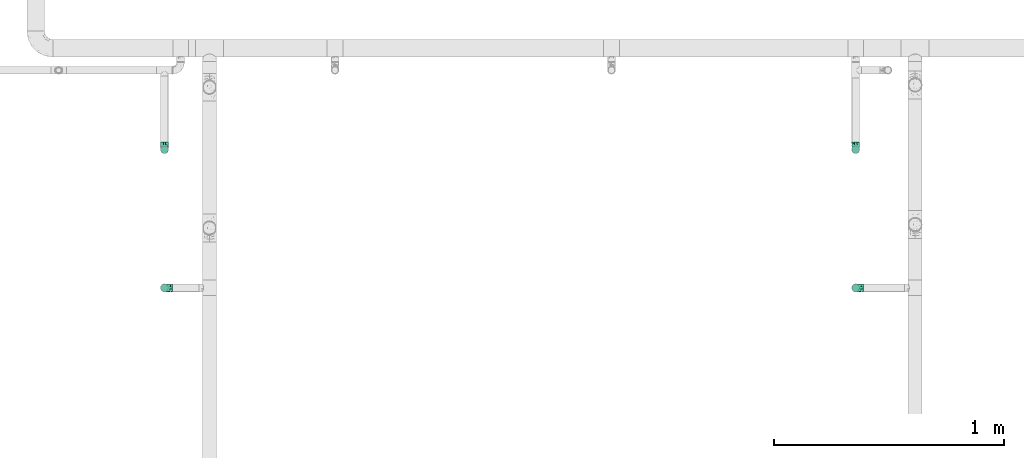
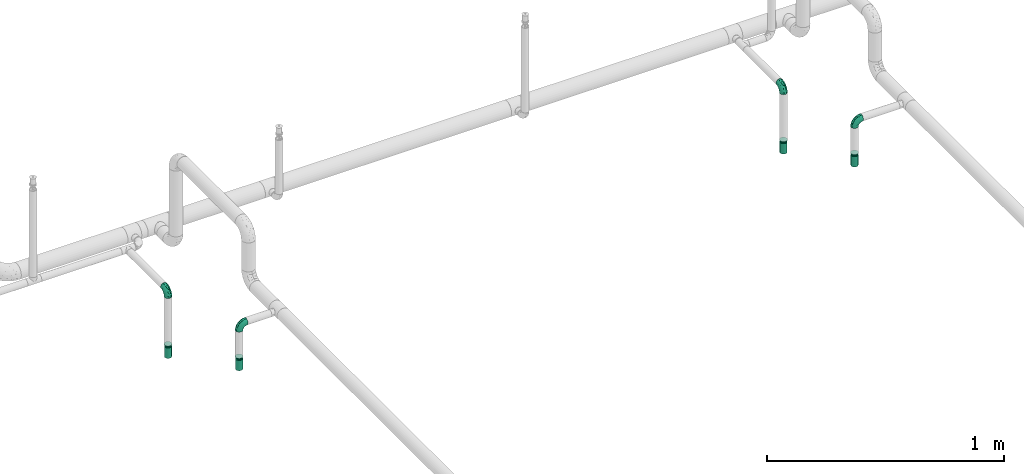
# One storey, part 97 of 157: 8 flow fittings, 4 flow terminals.
"""IFC2X3 building model written with IfcOpenShell, lengths in millimetres."""

from ifc_helpers import new_model, entity, si_unit, converted_unit, derived_unit, direction, frame, origin_with_axes, place, context, subcontext, project, spatial, open_shell, surface_model, source, transform, mapped, type_object, element, save


model = new_model("IFC2X3")

# Units and contexts
model_context = context("Model", 3, precision=0.01, world=frame((0.0, 4.29681676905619e-09, 0.0)), true_north=direction((4.01073788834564e-13, 1.0)))
plan_context = context("Plan", 3, precision=0.01, world=frame((0.0, 4.29681676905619e-09, 0.0)), true_north=direction((4.01073788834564e-13, 1.0)))
body_context = subcontext(model_context, "Body", "Model", "MODEL_VIEW")
ifc_project = project(units=[converted_unit("PLANEANGLEUNIT", "DEGREE", entity("IfcPositiveLengthMeasure", 0.0174532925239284), si_unit("PLANEANGLEUNIT", "RADIAN"), dimensions=[0, 0, 0, 0, 0, 0, 0]), si_unit("AREAUNIT", "SQUARE_METRE"), si_unit("LENGTHUNIT", "METRE", prefix="MILLI"), si_unit("MASSUNIT", "GRAM", prefix="KILO"), si_unit("POWERUNIT", "WATT"), si_unit("PRESSUREUNIT", "PASCAL"), si_unit("FORCEUNIT", "NEWTON", prefix="KILO"), si_unit("ELECTRICCURRENTUNIT", "AMPERE"), si_unit("THERMODYNAMICTEMPERATUREUNIT", "DEGREE_CELSIUS"), si_unit("TIMEUNIT", "SECOND"), si_unit("VOLUMEUNIT", "CUBIC_METRE"), derived_unit("LINEARVELOCITYUNIT", [(si_unit("LENGTHUNIT", "METRE"), 1), (si_unit("TIMEUNIT", "SECOND"), -1)]), derived_unit("VOLUMETRICFLOWRATEUNIT", [(si_unit("VOLUMEUNIT", "CUBIC_METRE"), 1), (si_unit("TIMEUNIT", "SECOND"), -1)]), derived_unit("THERMALTRANSMITTANCEUNIT", [(si_unit("POWERUNIT", "WATT"), 1), (si_unit("THERMODYNAMICTEMPERATUREUNIT", "KELVIN"), -1), (si_unit("AREAUNIT", "SQUARE_METRE"), -1)])], contexts=[model_context, plan_context])

# Site, building, storey
site_placement = place(None, frame((0.0, -4.29681676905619e-09, 0.0), z_axis=(0.0, 0.0, 1.0), x_axis=(1.0, 0.0, 0.0)))
site = spatial("IfcSite", under=ifc_project, at=site_placement, CompositionType="ELEMENT")
building_placement = place(site_placement, frame((0.0, 4.29681676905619e-09, 0.0), z_axis=(0.0, 0.0, 1.0), x_axis=(1.0, 0.0, 0.0)))
building = spatial("IfcBuilding", under=site, at=building_placement, Name="mc-building", CompositionType="ELEMENT")
storey_placement = place(building_placement, frame((0.0, 0.0, 204000.0), z_axis=(0.0, 0.0, 1.0), x_axis=(1.0, 0.0, 0.0)))
storey = spatial("IfcBuildingStorey", under=building, at=storey_placement, Name="Nivå D", CompositionType="ELEMENT", Elevation=204000.0)

# Flow fittings
pipe_fitting_type_1 = type_object("IfcPipeFittingType", Name="magi_pipe_fe_elbow_short_001", PredefinedType="BEND")
shared_shape_1 = source(origin_with_axes(), body_context, "Body", "SurfaceModel", [
    surface_model("IfcShellBasedSurfaceModel", [(-33.8, 8.45, -14.63583), (-33.8, 4.37404, -16.32415), (-33.8, 11.9501, -11.9501), (-33.8, -11.9501, -11.9501), (-33.8, -14.63583, -8.45), (-33.8, -8.45, -14.63583), (-33.8, 0.0, -16.9), (-33.8, -4.37404, -16.32415), (-33.8, -4.37404, 16.32415), (-33.8, 0.0, 16.9), (-33.8, -8.45, 14.63583), (-33.8, 16.32415, -4.37404), (-33.8, 14.63583, -8.45), (-33.8, -16.32415, -4.37404), (-33.8, -16.9, 0.0), (-33.8, -16.32415, 4.37404), (-33.8, 11.9501, 11.9501), (-33.8, 14.63583, 8.45), (-33.8, 16.32415, 4.37404), (-33.8, 4.37404, 16.32415), (-33.8, 8.45, 14.63583), (-33.8, -14.63583, 8.45), (-33.8, -11.9501, 11.9501), (-33.8, 16.9, 0.0), (-11.9501, 33.8, -11.9501), (0.0, 33.8, -16.9), (-4.37404, 33.8, -16.32415), (-8.45, 33.8, -14.63583), (-14.63583, 33.8, -8.45), (-16.32415, 33.8, -4.37404), (14.63583, 33.8, -8.45), (8.45, 33.8, 14.63583), (16.32415, 33.8, -4.37404), (8.45, 33.8, -14.63583), (11.9501, 33.8, -11.9501), (4.37404, 33.8, -16.32415), (16.32415, 33.8, 4.37404), (16.9, 33.8, 0.0), (-11.9501, 33.8, 11.9501), (-16.32415, 33.8, 4.37404), (-14.63583, 33.8, 8.45), (-8.45, 33.8, 14.63583), (-4.37404, 33.8, 16.32415), (11.9501, 33.8, 11.9501), (14.63583, 33.8, 8.45), (0.0, 33.8, 16.9), (4.37404, 33.8, 16.32415), (-16.9, 33.8, 0.0), (-24.79389, -13.12945, 9.48721), (-22.19287, -9.75018, 12.59315), (-24.09897, -14.97035, 0.0), (-14.93934, -10.76256, 8.5297), (-22.46095, -14.75051, 5.27077), (14.75051, 22.46094, 5.27077), (11.9251, 13.23888, 4.33236), (13.04069, 14.39795, 0.0), (7.71387, 13.68847, 11.55891), (9.75018, 22.19287, 12.59315), (4.10169, 13.0571, 14.04018), (-24.84007, -6.39063, 15.2048), (-25.81779, -2.23879, 16.61097), (-23.66549, 2.59054, 16.87119), (-26.50418, 14.06512, 11.08152), (-24.21253, 17.66365, 7.72657), (-29.58514, 15.86957, 7.00283), (-6.17382, -7.5455, 0.0), (-13.23888, -11.9251, 4.33236), (-14.39795, -13.04069, 0.0), (-17.81434, 18.87373, 11.97104), (-6.30846, 29.15138, 15.82987), (-2.31622, 25.28002, 16.85849), (-29.23923, 10.23435, 13.77053), (-1.45439, -2.85688, 7.61475), (-0.28326, 0.34872, 10.09509), (-5.74484, -4.04709, 10.4122), (-4.41137, 11.31918, 16.59407), (-8.39727, 3.10034, 15.7812), (-1.72649, 9.1306, 15.53089), (-17.39909, 24.75344, 7.64977), (-26.19233, 20.0512, 0.0), (-28.14518, 17.29657, 4.25857), (-26.05147, 6.6281, 15.96447), (-5.87354, 16.61944, 16.86968), (-12.51807, 12.51807, 16.48937), (-10.06312, 7.38516, 16.81295), (-3.01882, 3.01882, 13.81718), (-13.0571, -4.10169, 14.04018), (-16.82553, -0.15166, 16.38038), (10.76256, 14.93934, 8.5297), (13.12945, 24.79389, 9.48721), (6.39063, 24.84007, 15.2048), (2.23879, 25.81779, 16.61097), (-13.68847, -7.71387, 11.55891), (14.97035, 24.09897, 0.0), (-7.30894, 22.89991, 16.09489), (-10.67958, 26.17414, 14.008), (-12.78295, 18.26924, 15.06066), (-13.88562, 22.45231, 12.93244), (-18.04944, 15.16501, 14.04434), (-23.11658, 20.08178, 4.02986), (-21.84989, 21.84989, 0.0), (-18.55817, 25.48277, 3.93065), (-13.95142, 26.94732, 11.03289), (-18.57098, 7.23906, 16.59756), (-16.58335, 4.14122, 16.89279), (-17.96666, 11.46709, 15.63151), (-9.84453, 17.54304, 16.18938), (0.15166, 16.82553, 16.38038), (-23.27207, 11.47201, 14.23154), (3.84842, 5.86994, 10.70473), (-8.0212, -7.54413, 7.93275), (1.00345, -2.19508, 4.57414), (5.13203, 3.01004, 5.90201), (5.24161, 1.7543, 2.53265), (8.70457, 7.04947, 3.99182), (-20.0512, 26.19233, 0.0), (8.4852, 8.76699, 7.09296), (-4.55488, -6.72064, 4.90681), (2.05031, -2.05031, 0.0), (7.5455, 6.17382, 0.0), (-26.75399, 2.1369, -16.845), (-14.61995, 24.73803, -11.27736), (-28.45274, -13.45335, -9.81895), (-26.00469, 6.63555, -15.96645), (-23.06726, 20.04573, -4.26202), (-13.80647, -4.26506, -14.17873), (-14.67501, -0.21081, -16.07388), (-6.7902, -0.2828, -13.8478), (-24.53586, 11.08096, -14.13417), (-26.72048, 14.00837, -11.05776), (10.0967, 24.44989, -12.75976), (5.83237, 21.40218, -15.03047), (6.66249, 28.54238, -15.38093), (-20.38182, 15.48705, -12.74596), (12.53268, 21.23441, -9.15363), (12.54494, 15.67504, -5.54878), (9.7522, 12.89279, -8.66343), (-15.65186, 19.64213, -13.01327), (-12.03528, 20.66498, -14.67665), (-15.61907, 15.61906, -14.83879), (-25.56551, -15.26206, 0.0), (-24.65452, -15.12934, -5.50955), (13.45335, 28.45274, -9.81895), (15.12934, 24.65452, -5.50955), (-7.35442, -8.31014, -5.65563), (-15.67504, -12.54494, -5.54878), (-24.44989, -10.0967, -12.75976), (0.16522, 0.41303, -9.71728), (-5.70658, -5.33066, -8.89288), (-5.13869, -2.37198, -11.53565), (-21.23441, -12.53268, -9.15363), (0.71146, 7.93863, -14.09382), (0.21081, 14.67501, -16.07388), (3.49291, 14.42772, -14.76381), (-24.89911, -2.13088, -16.591), (-28.54238, -6.66249, -15.38093), (-18.44386, -7.71663, -13.26957), (2.13088, 24.89911, -16.591), (-28.64342, 17.44413, -2.89318), (1.70017, -1.28722, -5.09504), (-16.57067, 26.81947, -7.36596), (-17.69055, 27.4263, -3.76405), (-12.89279, -9.7522, -8.66343), (-5.96611, 5.96611, -15.95814), (-20.53709, 20.09345, -8.28985), (-2.1369, 26.75399, -16.845), (-6.89872, 24.58781, -16.02578), (-10.60739, 26.53157, -13.98044), (-21.40218, -5.83237, -15.03047), (2.93192, 5.89627, -11.55917), (6.89393, 12.61842, -11.82233), (5.58056, 5.95325, -8.79455), (-3.99512, 18.61798, -16.89635), (8.31014, 7.35442, -5.65563), (-9.1383, 9.86148, -16.89041), (-9.99983, 16.02119, -16.39699), (-16.68576, 9.78031, -16.34199), (-27.01915, 16.61158, -7.12979), (15.26206, 25.56551, 0.0), (-18.61798, 3.99512, -16.89635), (-19.37495, 27.82495, 0.0), (-12.61842, -6.89393, -11.82233), (-18.84705, 19.14018, -10.96545)], [open_shell([[[0, 1, 2]], [[3, 4, 5]], [[6, 7, 5]], [[8, 9, 10]], [[1, 6, 2]], [[11, 12, 2]], [[4, 2, 6]], [[2, 13, 10]], [[5, 4, 6]], [[2, 4, 13]], [[14, 15, 13]], [[11, 2, 16]], [[11, 17, 18]], [[11, 16, 17]], [[19, 20, 16]], [[16, 2, 10]], [[19, 16, 10]], [[21, 22, 15]], [[22, 13, 15]], [[22, 10, 13]], [[10, 9, 19]], [[11, 18, 23]], [[24, 25, 26]], [[24, 26, 27]], [[24, 28, 29]], [[25, 24, 30]], [[31, 32, 24]], [[33, 30, 34]], [[33, 35, 25]], [[25, 30, 33]], [[32, 30, 24]], [[32, 36, 37]], [[38, 24, 29]], [[39, 40, 29]], [[40, 38, 29]], [[38, 41, 42]], [[38, 31, 24]], [[31, 38, 42]], [[36, 43, 44]], [[36, 32, 43]], [[31, 45, 46]], [[32, 31, 43]], [[42, 45, 31]], [[39, 29, 47]], [[22, 48, 49]], [[15, 14, 50]], [[51, 48, 52]], [[53, 54, 55]], [[48, 22, 21]], [[15, 52, 21]], [[56, 57, 58]], [[49, 10, 22]], [[49, 59, 10]], [[9, 60, 61]], [[62, 63, 64]], [[65, 66, 67]], [[57, 43, 31]], [[62, 68, 63]], [[42, 69, 70]], [[20, 71, 16]], [[8, 60, 9]], [[72, 73, 74]], [[75, 76, 77]], [[16, 62, 17]], [[40, 39, 78]], [[79, 23, 80]], [[64, 18, 17]], [[9, 61, 19]], [[19, 81, 20]], [[82, 83, 84]], [[74, 85, 86]], [[59, 86, 87]], [[88, 89, 57]], [[90, 31, 46]], [[44, 53, 36]], [[46, 45, 91]], [[54, 53, 88]], [[44, 89, 53]], [[92, 86, 49]], [[89, 44, 43]], [[10, 59, 8]], [[53, 55, 93]], [[93, 36, 53]], [[66, 52, 67]], [[94, 82, 70]], [[95, 96, 94]], [[97, 98, 96]], [[79, 99, 100]], [[41, 38, 95]], [[101, 100, 99]], [[68, 78, 63]], [[42, 41, 69]], [[23, 18, 80]], [[95, 94, 69]], [[78, 101, 99]], [[38, 102, 95]], [[70, 45, 42]], [[97, 95, 102]], [[15, 50, 52]], [[90, 57, 31]], [[57, 90, 58]], [[81, 19, 61]], [[103, 104, 84]], [[105, 81, 103]], [[38, 40, 102]], [[106, 96, 83]], [[94, 106, 82]], [[91, 70, 107]], [[71, 62, 16]], [[62, 108, 98]], [[86, 59, 49]], [[67, 52, 50]], [[60, 59, 87]], [[92, 49, 51]], [[86, 85, 76]], [[91, 90, 46]], [[37, 36, 93]], [[107, 77, 58]], [[107, 58, 90]], [[58, 85, 109]], [[110, 74, 92]], [[72, 74, 110]], [[66, 51, 52]], [[72, 111, 112]], [[113, 114, 112]], [[56, 88, 57]], [[52, 48, 21]], [[49, 48, 51]], [[57, 89, 43]], [[53, 89, 88]], [[103, 81, 61]], [[71, 81, 108]], [[18, 64, 80]], [[63, 78, 99]], [[47, 115, 101]], [[101, 115, 100]], [[40, 78, 102]], [[68, 102, 78]], [[97, 96, 95]], [[105, 98, 108]], [[103, 84, 83]], [[107, 70, 82]], [[76, 84, 87]], [[82, 84, 75]], [[70, 91, 45]], [[90, 91, 107]], [[59, 60, 8]], [[61, 60, 87]], [[73, 85, 74]], [[109, 112, 116]], [[103, 61, 104]], [[105, 103, 83]], [[96, 105, 83]], [[81, 105, 108]], [[96, 98, 105]], [[62, 98, 68]], [[61, 87, 104]], [[87, 84, 104]], [[86, 76, 87]], [[77, 76, 85]], [[58, 77, 85]], [[75, 77, 107]], [[82, 75, 107]], [[76, 75, 84]], [[81, 71, 20]], [[62, 71, 108]], [[95, 69, 41]], [[70, 69, 94]], [[62, 64, 17]], [[80, 63, 99]], [[63, 80, 64]], [[80, 99, 79]], [[66, 65, 117]], [[110, 66, 117]], [[112, 114, 116]], [[118, 117, 65]], [[110, 92, 51]], [[112, 111, 113]], [[119, 55, 54]], [[74, 86, 92]], [[58, 109, 56]], [[116, 56, 109]], [[66, 110, 51]], [[72, 110, 117]], [[111, 72, 117]], [[73, 112, 109]], [[117, 118, 111]], [[113, 111, 118]], [[118, 119, 113]], [[114, 119, 54]], [[119, 114, 113]], [[116, 54, 88]], [[54, 116, 114]], [[116, 88, 56]], [[112, 73, 72]], [[85, 73, 109]], [[78, 39, 101]], [[47, 101, 39]], [[102, 68, 97]], [[97, 68, 98]], [[82, 106, 83]], [[94, 96, 106]], [[1, 120, 6]], [[28, 24, 121]], [[3, 122, 4]], [[0, 123, 1]], [[100, 124, 79]], [[125, 126, 127]], [[128, 2, 129]], [[130, 131, 132]], [[128, 129, 133]], [[134, 135, 136]], [[137, 138, 139]], [[128, 0, 2]], [[67, 140, 141]], [[134, 142, 143]], [[141, 13, 4]], [[144, 65, 145]], [[146, 3, 5]], [[147, 148, 149]], [[145, 141, 150]], [[151, 152, 153]], [[154, 7, 6]], [[5, 155, 146]], [[150, 146, 156]], [[155, 5, 7]], [[143, 135, 134]], [[35, 157, 25]], [[23, 79, 158]], [[148, 159, 144]], [[160, 161, 29]], [[145, 162, 144]], [[163, 152, 151]], [[29, 28, 160]], [[121, 164, 160]], [[33, 34, 130]], [[25, 165, 26]], [[26, 165, 166]], [[142, 34, 30]], [[24, 27, 167]], [[124, 161, 164]], [[157, 35, 132]], [[155, 154, 168]], [[123, 0, 128]], [[169, 170, 171]], [[172, 157, 152]], [[26, 166, 27]], [[132, 35, 33]], [[142, 130, 34]], [[168, 154, 126]], [[136, 135, 173]], [[133, 137, 139]], [[2, 12, 129]], [[170, 131, 130]], [[30, 32, 143]], [[172, 174, 175]], [[176, 123, 128]], [[158, 177, 11]], [[135, 55, 119]], [[167, 27, 166]], [[175, 166, 172]], [[137, 167, 138]], [[122, 141, 4]], [[140, 14, 13]], [[32, 37, 178]], [[170, 130, 134]], [[152, 157, 131]], [[165, 157, 172]], [[153, 170, 151]], [[152, 163, 174]], [[168, 125, 156]], [[122, 146, 150]], [[120, 154, 6]], [[179, 174, 126]], [[179, 126, 154]], [[126, 163, 127]], [[162, 145, 150]], [[140, 13, 141]], [[32, 178, 143]], [[55, 143, 178]], [[177, 129, 12]], [[128, 133, 139]], [[176, 128, 139]], [[120, 123, 179]], [[121, 160, 28]], [[161, 100, 180]], [[166, 175, 138]], [[121, 24, 167]], [[161, 47, 29]], [[79, 124, 158]], [[124, 164, 177]], [[161, 124, 100]], [[136, 171, 170]], [[127, 163, 151]], [[147, 171, 159]], [[148, 144, 162]], [[127, 151, 169]], [[127, 181, 125]], [[129, 177, 164]], [[12, 11, 177]], [[159, 65, 144]], [[67, 141, 145]], [[143, 55, 135]], [[135, 119, 173]], [[123, 120, 1]], [[154, 120, 179]], [[157, 165, 25]], [[166, 165, 172]], [[172, 152, 174]], [[176, 139, 175]], [[126, 174, 163]], [[176, 174, 179]], [[174, 176, 175]], [[123, 176, 179]], [[150, 181, 162]], [[127, 149, 181]], [[181, 148, 162]], [[159, 148, 147]], [[171, 136, 173]], [[170, 134, 136]], [[159, 171, 173]], [[171, 147, 169]], [[169, 147, 149]], [[151, 170, 169]], [[164, 182, 129]], [[182, 121, 137]], [[181, 149, 148]], [[169, 149, 127]], [[182, 137, 133]], [[167, 137, 121]], [[166, 138, 167]], [[175, 139, 138]], [[129, 182, 133]], [[121, 182, 164]], [[161, 160, 164]], [[47, 161, 180]], [[177, 158, 124]], [[23, 158, 11]], [[130, 132, 33]], [[157, 132, 131]], [[143, 142, 30]], [[130, 142, 134]], [[154, 155, 7]], [[146, 155, 168]], [[146, 122, 3]], [[141, 122, 150]], [[152, 131, 153]], [[159, 119, 118]], [[67, 145, 65]], [[170, 153, 131]], [[119, 159, 173]], [[159, 118, 65]], [[156, 125, 181]], [[126, 125, 168]], [[150, 156, 181]], [[168, 156, 146]]])]),
])
for number, where, z_axis, x_axis, name in (
    (1, (524500.0, 413000.0, 2880.0), (0.0, 1.0, 0.0), (0.0, 0.0, 1.0), "magi_pipe_fe_elbow_short_001"),
    (2, (524500.0, 413600.0, 2690.0), (-1.0, 0.0, 0.0), (0.0, 0.0, 1.0), "magi_pipe_fe_elbow_short_001"),
    (3, (527500.0, 413000.0, 2880.0), (0.0, 1.0, 0.0), (0.0, 0.0, 1.0), "magi_pipe_fe_elbow_short_001"),
    (4, (527499.97837, 413600.00001, 2690.0), (-0.99999999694, -5.99999998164e-06, -7.799999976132e-05), (-7.7999999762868e-05, 2.3999999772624e-11, 0.999999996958), "magi_pipe_fe_elbow_short_001"),
):
    element("IfcFlowFitting", number, at=place(storey_placement, frame(where, z_axis=z_axis, x_axis=x_axis)), inside=storey, type_object=pipe_fitting_type_1, Name=name, context=body_context, shape_type="MappedRepresentation", body=[
        mapped(shared_shape_1, transform((0.0, 0.0, 0.0), scale=1.0)),
    ])
pipe_fitting_type_2 = type_object("IfcPipeFittingType", Name="magi_pipe_fe_reducer_centric_short_NOR", PredefinedType="TRANSITION")
shared_shape_2 = source(origin_with_axes(), body_context, "Body", "SurfaceModel", [
    surface_model("IfcShellBasedSurfaceModel", [(-2.0, -7.56604, -7.56604), (-2.0, -10.33541, -2.76936), (-2.0, -5.35, -9.26647), (-2.0, 5.35, -9.26647), (-2.0, 10.33541, -2.76936), (-2.0, 7.56604, -7.56604), (12.4, 11.9501, 11.9501), (12.4, 0.0, 16.9), (12.4, 11.9501, -11.9501), (12.4, 16.9, 0.0), (0.0, -10.7, 0.0), (0.0, -5.35, 9.26647), (0.0, -5.35, -9.26647), (0.0, 10.7, 0.0), (12.4, 15.66253, -2.98753), (12.4, 8.96258, -13.18758), (0.0, 6.6875, -6.94985), (12.4, -15.66253, -2.98753), (12.4, -16.9, 0.0), (12.4, 5.97505, -14.42505), (0.0, 5.35, -9.26647), (12.4, 14.42505, -5.97505), (0.0, 8.025, -4.63324), (0.0, 9.3625, -2.31662), (0.0, -9.3625, -2.31662), (0.0, -8.025, -4.63324), (12.4, -14.42505, -5.97505), (12.4, 13.18758, -8.96258), (12.4, -13.18758, -8.96258), (12.4, -11.9501, -11.9501), (0.0, -6.6875, -6.94985), (12.4, -8.96258, -13.18758), (12.4, -5.97505, -14.42505), (12.4, -15.66253, 2.98753), (12.4, -8.96258, 13.18758), (0.0, -6.6875, 6.94985), (12.4, -11.9501, 11.9501), (12.4, 15.66253, 2.98753), (12.4, -5.97505, 14.42505), (12.4, -14.42505, 5.97505), (0.0, -8.025, 4.63324), (0.0, -9.3625, 2.31662), (0.0, 9.3625, 2.31662), (0.0, 8.025, 4.63324), (12.4, 14.42505, 5.97505), (12.4, -13.18758, 8.96258), (12.4, 13.18758, 8.96258), (0.0, 6.6875, 6.94985), (12.4, 8.96258, 13.18758), (0.0, 5.35, 9.26647), (12.4, 5.97505, 14.42505), (14.4, 4.37404, -16.32415), (14.4, 8.45, -14.63583), (14.4, 11.9501, -11.9501), (14.4, -8.45, -14.63583), (14.4, 16.32415, -4.37404), (14.4, 16.32415, 4.37404), (14.4, 14.63583, -8.45), (14.4, 0.0, -16.9), (14.4, -4.37404, -16.32415), (14.4, -11.9501, -11.9501), (14.4, -16.32415, -4.37404), (14.4, -14.63583, -8.45), (14.4, -16.32415, 4.37404), (14.4, 16.9, 0.0), (14.4, 14.63583, 8.45), (14.4, 11.9501, 11.9501), (14.4, 4.37404, 16.32415), (14.4, 8.45, 14.63583), (14.4, 0.0, 16.9), (14.4, -14.63583, 8.45), (14.4, -16.9, 0.0), (14.4, -8.45, 14.63583), (14.4, -11.9501, 11.9501), (14.4, -4.37404, 16.32415), (12.4, 4.37404, 16.32415), (12.4, -14.63583, 8.45), (12.4, 16.32415, 4.37404), (12.4, 8.45, 14.63583), (12.4, 14.63583, 8.45), (12.4, -8.45, 14.63583), (12.4, -4.37404, 16.32415), (12.4, -16.32415, 4.37404), (12.4, -16.32415, -4.37404), (12.4, -8.45, -14.63583), (12.4, 16.32415, -4.37404), (12.4, 14.63583, -8.45), (12.4, 8.45, -14.63583), (12.4, 4.37404, -16.32415), (12.4, 0.0, -16.9), (12.4, -14.63583, -8.45), (12.4, -4.37404, -16.32415), (-2.0, 2.76936, 10.33541), (-2.0, 0.0, 10.7), (-2.0, 5.35, 9.26647), (-2.0, 7.56604, 7.56604), (-2.0, 9.26647, 5.35), (-2.0, 10.33541, 2.76936), (-2.0, -10.33541, 2.76936), (-2.0, -2.76936, 10.33541), (-2.0, -7.56604, 7.56604), (-2.0, -5.35, 9.26647), (-2.0, -9.26647, 5.35), (-2.0, -10.7, 0.0), (-2.0, 9.26647, -5.35), (-2.0, 2.76936, -10.33541), (-2.0, -9.26647, -5.35), (-2.0, 0.0, -10.7), (-2.0, -2.76936, -10.33541), (-2.0, 10.7, 0.0), (0.0, 0.0, -10.7), (0.0, 2.76936, -10.33541), (0.0, 10.33541, -2.76936), (0.0, 7.56604, -7.56604), (0.0, -10.33541, -2.76936), (0.0, 9.26647, -5.35), (0.0, 0.0, 10.7), (0.0, -2.76936, -10.33541), (0.0, -7.56604, -7.56604), (0.0, -9.26647, -5.35), (0.0, 10.33541, 2.76936), (0.0, 9.26647, 5.35), (0.0, 7.56604, 7.56604), (0.0, 2.76936, 10.33541), (0.0, -7.56604, 7.56604), (0.0, -10.33541, 2.76936), (0.0, -9.26647, 5.35), (0.0, -2.76936, 10.33541), (0.0, 2.675, -9.26647), (0.0, -2.675, -9.26647), (12.4, 2.98753, -15.66253), (0.0, 0.0, -9.26647), (12.4, -2.98753, -15.66253), (0.0, -2.675, 9.26647), (0.0, 2.675, 9.26647), (12.4, -2.98753, 15.66253), (0.0, 0.0, 9.26647), (12.4, 2.98753, 15.66253)], [open_shell([[[0, 1, 2]], [[3, 4, 5]], [[6, 7, 8]], [[8, 9, 6]], [[10, 11, 12]], [[13, 9, 14]], [[15, 16, 8]], [[17, 18, 10]], [[15, 19, 20]], [[21, 22, 23]], [[24, 25, 26]], [[22, 21, 27]], [[28, 26, 25]], [[29, 30, 31]], [[12, 32, 31]], [[10, 18, 33]], [[34, 35, 36]], [[37, 9, 13]], [[34, 38, 11]], [[39, 40, 41]], [[42, 43, 44]], [[40, 39, 45]], [[46, 44, 43]], [[6, 47, 48]], [[49, 50, 48]], [[51, 52, 53]], [[54, 51, 53]], [[53, 55, 56]], [[55, 53, 57]], [[53, 56, 54]], [[58, 54, 59]], [[58, 51, 54]], [[60, 61, 62]], [[61, 60, 54]], [[54, 63, 61]], [[56, 55, 64]], [[56, 65, 66]], [[56, 66, 67]], [[67, 63, 54]], [[67, 66, 68]], [[63, 67, 69]], [[69, 70, 63]], [[71, 61, 63]], [[70, 72, 73]], [[70, 69, 72]], [[72, 69, 74]], [[54, 56, 67]], [[75, 76, 7]], [[77, 75, 78]], [[6, 79, 77]], [[6, 77, 78]], [[76, 75, 77]], [[80, 76, 36]], [[80, 81, 7]], [[7, 76, 80]], [[82, 76, 77]], [[82, 83, 18]], [[82, 77, 84]], [[77, 85, 8]], [[8, 85, 86]], [[8, 87, 88]], [[84, 77, 8]], [[88, 89, 8]], [[83, 29, 90]], [[29, 83, 84]], [[84, 89, 91]], [[83, 82, 84]], [[8, 89, 84]], [[85, 77, 9]], [[83, 61, 18]], [[90, 62, 83]], [[54, 29, 84]], [[90, 29, 60]], [[59, 84, 91]], [[83, 62, 61]], [[61, 71, 18]], [[59, 54, 84]], [[60, 29, 54]], [[60, 62, 90]], [[58, 59, 91]], [[91, 89, 58]], [[88, 51, 89]], [[87, 52, 88]], [[57, 8, 86]], [[87, 8, 53]], [[55, 86, 85]], [[87, 53, 52]], [[52, 51, 88]], [[64, 55, 85]], [[57, 86, 55]], [[57, 53, 8]], [[9, 64, 85]], [[89, 51, 58]], [[77, 56, 9]], [[79, 65, 77]], [[68, 6, 78]], [[79, 6, 66]], [[67, 78, 75]], [[77, 65, 56]], [[56, 64, 9]], [[67, 68, 78]], [[66, 6, 68]], [[66, 65, 79]], [[69, 67, 75]], [[75, 7, 69]], [[81, 74, 7]], [[80, 72, 81]], [[70, 36, 76]], [[80, 36, 73]], [[63, 76, 82]], [[80, 73, 72]], [[72, 74, 81]], [[71, 63, 82]], [[70, 76, 63]], [[70, 73, 36]], [[18, 71, 82]], [[7, 74, 69]], [[92, 1, 93]], [[94, 1, 92]], [[95, 96, 97]], [[95, 97, 94]], [[98, 93, 1]], [[99, 100, 101]], [[99, 93, 100]], [[100, 98, 102]], [[93, 98, 100]], [[98, 1, 103]], [[94, 97, 1]], [[1, 97, 4]], [[5, 4, 104]], [[4, 3, 1]], [[105, 1, 3]], [[1, 0, 106]], [[2, 107, 108]], [[2, 1, 105]], [[105, 107, 2]], [[4, 97, 109]], [[20, 110, 111]], [[112, 20, 113]], [[114, 20, 112]], [[112, 113, 115]], [[116, 114, 112]], [[110, 12, 117]], [[110, 20, 12]], [[118, 114, 119]], [[114, 118, 12]], [[20, 114, 12]], [[112, 13, 120]], [[120, 121, 122]], [[120, 122, 123]], [[116, 112, 123]], [[123, 122, 49]], [[116, 124, 114]], [[125, 124, 126]], [[10, 114, 125]], [[124, 127, 11]], [[125, 114, 124]], [[127, 124, 116]], [[123, 112, 120]], [[1, 114, 103]], [[106, 119, 1]], [[12, 0, 2]], [[106, 0, 118]], [[117, 2, 108]], [[1, 119, 114]], [[114, 10, 103]], [[117, 12, 2]], [[118, 0, 12]], [[118, 119, 106]], [[110, 117, 108]], [[108, 107, 110]], [[105, 111, 107]], [[3, 20, 105]], [[115, 5, 104]], [[3, 5, 113]], [[112, 104, 4]], [[3, 113, 20]], [[20, 111, 105]], [[13, 112, 4]], [[115, 104, 112]], [[115, 113, 5]], [[109, 13, 4]], [[107, 111, 110]], [[97, 120, 109]], [[96, 121, 97]], [[49, 95, 94]], [[96, 95, 122]], [[123, 94, 92]], [[97, 121, 120]], [[120, 13, 109]], [[123, 49, 94]], [[122, 95, 49]], [[122, 121, 96]], [[116, 123, 92]], [[92, 93, 116]], [[99, 127, 93]], [[101, 11, 99]], [[126, 100, 102]], [[101, 100, 124]], [[125, 102, 98]], [[101, 124, 11]], [[11, 127, 99]], [[10, 125, 98]], [[126, 102, 125]], [[126, 124, 100]], [[103, 10, 98]], [[93, 127, 116]], [[18, 7, 36]], [[18, 29, 8]], [[89, 8, 29]], [[18, 8, 7]], [[13, 11, 49]], [[13, 20, 12]], [[13, 12, 11]], [[24, 26, 17]], [[10, 24, 17]], [[16, 15, 20]], [[30, 12, 31]], [[23, 14, 21]], [[19, 128, 20]], [[27, 8, 16]], [[32, 12, 129]], [[30, 28, 25]], [[130, 131, 128]], [[129, 132, 32]], [[16, 22, 27]], [[13, 14, 23]], [[128, 19, 130]], [[130, 89, 131]], [[131, 132, 129]], [[89, 132, 131]], [[28, 30, 29]], [[42, 44, 37]], [[13, 42, 37]], [[35, 34, 11]], [[47, 49, 48]], [[41, 33, 39]], [[38, 133, 11]], [[45, 36, 35]], [[50, 49, 134]], [[47, 46, 43]], [[135, 136, 133]], [[134, 137, 50]], [[35, 40, 45]], [[10, 33, 41]], [[133, 38, 135]], [[135, 7, 136]], [[136, 137, 134]], [[7, 137, 136]], [[46, 47, 6]]])]),
])
for number, where, z_axis, x_axis, name in (
    (5, (524500.0, 413600.0, 2396.95199999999), (0.0, 1.0, 0.0), (0.0, 0.0, 1.0), "magi_pipe_fe_reducer_centric_short_NOR"),
    (6, (527500.0, 413600.0, 2400.0), (0.0, 1.0, 0.0), (0.0, 0.0, 1.0), "magi_pipe_fe_reducer_centric_short_NOR"),
    (7, (524500.0, 413000.0, 2696.95199999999), (0.0, -1.0, 0.0), (0.0, 0.0, 1.0), "magi_pipe_fe_reducer_centric_short_NOR"),
    (8, (527500.0, 413000.0, 2696.95199999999), (0.0, -1.0, 0.0), (0.0, 0.0, 1.0), "magi_pipe_fe_reducer_centric_short_NOR"),
):
    element("IfcFlowFitting", number, at=place(storey_placement, frame(where, z_axis=z_axis, x_axis=x_axis)), inside=storey, type_object=pipe_fitting_type_2, Name=name, context=body_context, shape_type="MappedRepresentation", body=[
        mapped(shared_shape_2, transform((0.0, 0.0, 0.0), scale=1.0)),
    ])

# Flow terminals
fire_suppression_terminal_type = type_object("IfcFireSuppressionTerminalType", Name="SP-15-K80-68DGR-STD-HIMLING", PredefinedType="NOTDEFINED")
shared_shape_3 = source(origin_with_axes(), body_context, "Body", "SurfaceModel", [
    surface_model("IfcShellBasedSurfaceModel", [(4.1411, -15.45481, 53.0), (8.0, -13.85641, 53.0), (11.31371, -11.31371, 53.0), (-8.0, -13.85641, 53.0), (15.45481, -4.1411, 53.0), (16.0, 0.0, 53.0), (13.85641, -8.0, 53.0), (0.0, -16.0, 53.0), (-4.1411, -15.45481, 53.0), (-13.85641, -8.0, 53.0), (-11.31371, -11.31371, 53.0), (-15.45481, -4.1411, 53.0), (15.45481, 4.1411, 53.0), (13.85641, 8.0, 53.0), (11.31371, 11.31371, 53.0), (-4.1411, 15.45481, 53.0), (8.0, 13.85641, 53.0), (4.1411, 15.45481, 53.0), (0.0, 16.0, 53.0), (-13.85641, 8.0, 53.0), (-15.45481, 4.1411, 53.0), (-16.0, 0.0, 53.0), (-11.31371, 11.31371, 53.0), (-8.0, 13.85641, 53.0), (0.0, 16.0, 0.0), (4.1411, 15.45481, 0.0), (8.0, 13.85641, 0.0), (-4.1411, 15.45481, 0.0), (11.31371, 11.31371, 0.0), (13.85641, 8.0, 0.0), (15.45481, 4.1411, 0.0), (-15.45481, -4.1411, 0.0), (-11.31371, 11.31371, 0.0), (-8.0, 13.85641, 0.0), (-13.85641, 8.0, 0.0), (-15.45481, 4.1411, 0.0), (-16.0, 0.0, 0.0), (4.1411, -15.45481, 0.0), (16.0, 0.0, 0.0), (15.45481, -4.1411, 0.0), (13.85641, -8.0, 0.0), (11.31371, -11.31371, 0.0), (8.0, -13.85641, 0.0), (-8.0, -13.85641, 0.0), (-13.85641, -8.0, 0.0), (-11.31371, -11.31371, 0.0), (0.0, -16.0, 0.0), (-4.1411, -15.45481, 0.0)], [open_shell([[[0, 1, 2]], [[3, 0, 2]], [[4, 5, 2]], [[4, 2, 6]], [[3, 2, 5]], [[7, 3, 8]], [[7, 0, 3]], [[3, 9, 10]], [[9, 3, 11]], [[5, 11, 3]], [[5, 12, 11]], [[12, 13, 14]], [[15, 12, 14]], [[16, 17, 18]], [[14, 16, 15]], [[18, 15, 16]], [[11, 19, 20]], [[21, 11, 20]], [[22, 15, 23]], [[15, 22, 19]], [[19, 11, 15]], [[11, 12, 15]], [[24, 25, 26]], [[27, 24, 26]], [[28, 29, 30]], [[27, 26, 28]], [[27, 28, 31]], [[27, 32, 33]], [[32, 27, 34]], [[34, 31, 35]], [[31, 34, 27]], [[35, 31, 36]], [[28, 30, 31]], [[37, 38, 39]], [[37, 39, 40]], [[41, 42, 37]], [[41, 37, 40]], [[38, 37, 43]], [[44, 43, 45]], [[43, 44, 31]], [[43, 46, 47]], [[43, 31, 38]], [[37, 46, 43]], [[38, 31, 30]], [[11, 31, 44]], [[45, 9, 44]], [[3, 43, 47]], [[45, 43, 10]], [[8, 47, 46]], [[31, 21, 36]], [[31, 11, 21]], [[44, 9, 11]], [[45, 10, 9]], [[3, 10, 43]], [[47, 8, 3]], [[46, 7, 8]], [[0, 37, 42]], [[41, 1, 42]], [[6, 40, 39]], [[41, 40, 2]], [[4, 39, 38]], [[37, 0, 7]], [[42, 1, 0]], [[41, 2, 1]], [[40, 6, 2]], [[4, 6, 39]], [[38, 5, 4]], [[37, 7, 46]], [[12, 38, 30]], [[13, 30, 29]], [[16, 26, 25]], [[17, 25, 24]], [[30, 13, 12]], [[12, 5, 38]], [[28, 14, 13]], [[28, 26, 14]], [[14, 26, 16]], [[25, 17, 16]], [[28, 13, 29]], [[24, 18, 17]], [[15, 27, 33]], [[32, 23, 33]], [[19, 34, 35]], [[32, 34, 22]], [[20, 35, 36]], [[27, 15, 18]], [[33, 23, 15]], [[32, 22, 23]], [[34, 19, 22]], [[20, 19, 35]], [[36, 21, 20]], [[27, 18, 24]]])]),
])
for number, where, z_axis, x_axis in (
    (9, (527500.0, 413600.0, 2403.04800000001), (0.0, 0.0, -1.0), (1.0, 0.0, 0.0)),
    (10, (524500.0, 413600.0, 2400.0), (0.0, 0.0, -1.0), (1.0, 0.0, 0.0)),
    (11, (524500.0, 413000.0, 2700.0), (0.0, 0.0, -1.0), (1.0, 0.0, 0.0)),
    (12, (527500.0, 413000.0, 2700.0), (0.0, 0.0, -1.0), (1.0, 0.0, 0.0)),
):
    element("IfcFlowTerminal", number, at=place(storey_placement, frame(where, z_axis=z_axis, x_axis=x_axis)), inside=storey, type_object=fire_suppression_terminal_type, Name="SP-15-K80-68DGR-STD-HIMLING", context=body_context, shape_type="MappedRepresentation", body=[
        mapped(shared_shape_3, transform((0.0, 0.0, 0.0), scale=1.0)),
    ])

save(model, "model.ifc")
